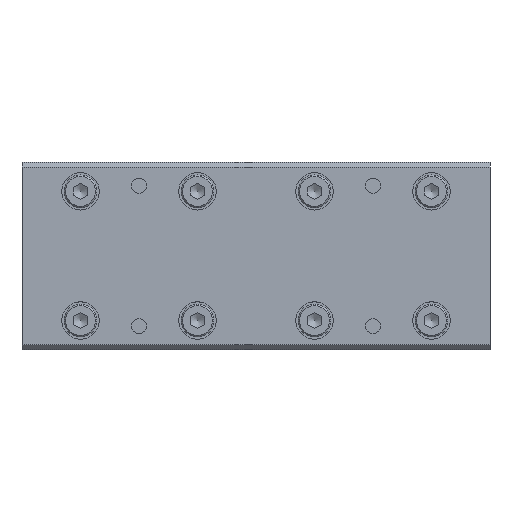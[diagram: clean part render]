
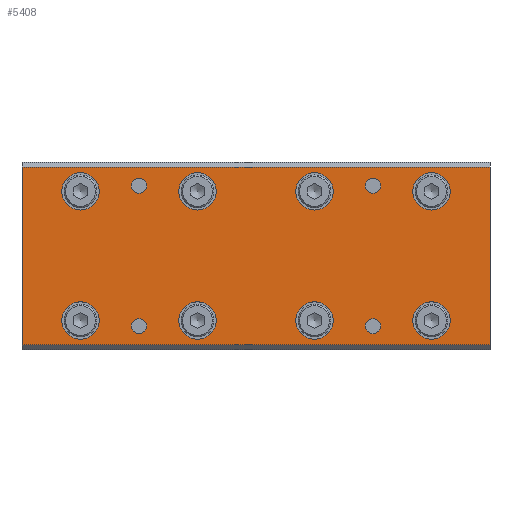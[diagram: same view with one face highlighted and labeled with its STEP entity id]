
A CAD part, top view. The second image highlights one B-rep face of the part: STEP entity #5408.
In plain terms, the highlighted planar face has unit normal (0, 0, 1).
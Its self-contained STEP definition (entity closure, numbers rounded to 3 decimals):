
#4370=CARTESIAN_POINT('',(100.0,19.0,10.));
#4371=VERTEX_POINT('',#4370);
#4378=CARTESIAN_POINT('',(100.0,-19.0,10.));
#4379=VERTEX_POINT('',#4378);
#4380=CARTESIAN_POINT('',(100.0,-19.0,10.));
#4381=DIRECTION('',(0.0,1.0,0.0));
#4382=VECTOR('',#4381,38.0);
#4383=LINE('',#4380,#4382);
#4384=EDGE_CURVE('',#4379,#4371,#4383,.T.);
#4523=CARTESIAN_POINT('',(16.5,-13.8,10.));
#4524=VERTEX_POINT('',#4523);
#4525=CARTESIAN_POINT('',(12.5,-13.8,10.));
#4526=DIRECTION('',(0.0,0.0,-1.0));
#4527=DIRECTION('',(1.0,0.0,0.0));
#4528=AXIS2_PLACEMENT_3D('',#4525,#4526,#4527);
#4529=CIRCLE('',#4528,4.0);
#4530=EDGE_CURVE('',#4524,#4524,#4529,.T.);
#4592=CARTESIAN_POINT('',(16.5,13.8,10.));
#4593=VERTEX_POINT('',#4592);
#4594=CARTESIAN_POINT('',(12.5,13.8,10.));
#4595=DIRECTION('',(0.0,0.0,-1.0));
#4596=DIRECTION('',(1.0,0.0,0.0));
#4597=AXIS2_PLACEMENT_3D('',#4594,#4595,#4596);
#4598=CIRCLE('',#4597,4.0);
#4599=EDGE_CURVE('',#4593,#4593,#4598,.T.);
#4673=CARTESIAN_POINT('',(41.5,-13.8,10.));
#4674=VERTEX_POINT('',#4673);
#4675=CARTESIAN_POINT('',(37.5,-13.8,10.));
#4676=DIRECTION('',(0.0,0.0,-1.0));
#4677=DIRECTION('',(1.0,0.0,0.0));
#4678=AXIS2_PLACEMENT_3D('',#4675,#4676,#4677);
#4679=CIRCLE('',#4678,4.0);
#4680=EDGE_CURVE('',#4674,#4674,#4679,.T.);
#4714=CARTESIAN_POINT('',(41.5,13.8,10.));
#4715=VERTEX_POINT('',#4714);
#4716=CARTESIAN_POINT('',(37.5,13.8,10.));
#4717=DIRECTION('',(0.0,0.0,-1.0));
#4718=DIRECTION('',(1.0,0.0,0.0));
#4719=AXIS2_PLACEMENT_3D('',#4716,#4717,#4718);
#4720=CIRCLE('',#4719,4.0);
#4721=EDGE_CURVE('',#4715,#4715,#4720,.T.);
#4795=CARTESIAN_POINT('',(66.5,-13.8,10.));
#4796=VERTEX_POINT('',#4795);
#4797=CARTESIAN_POINT('',(62.5,-13.8,10.));
#4798=DIRECTION('',(0.0,0.0,-1.0));
#4799=DIRECTION('',(1.0,0.0,0.0));
#4800=AXIS2_PLACEMENT_3D('',#4797,#4798,#4799);
#4801=CIRCLE('',#4800,4.0);
#4802=EDGE_CURVE('',#4796,#4796,#4801,.T.);
#4836=CARTESIAN_POINT('',(66.5,13.8,10.));
#4837=VERTEX_POINT('',#4836);
#4838=CARTESIAN_POINT('',(62.5,13.8,10.));
#4839=DIRECTION('',(0.0,0.0,-1.0));
#4840=DIRECTION('',(1.0,0.0,0.0));
#4841=AXIS2_PLACEMENT_3D('',#4838,#4839,#4840);
#4842=CIRCLE('',#4841,4.0);
#4843=EDGE_CURVE('',#4837,#4837,#4842,.T.);
#4917=CARTESIAN_POINT('',(91.5,-13.8,10.));
#4918=VERTEX_POINT('',#4917);
#4919=CARTESIAN_POINT('',(87.5,-13.8,10.));
#4920=DIRECTION('',(0.0,0.0,-1.0));
#4921=DIRECTION('',(1.0,0.0,0.0));
#4922=AXIS2_PLACEMENT_3D('',#4919,#4920,#4921);
#4923=CIRCLE('',#4922,4.0);
#4924=EDGE_CURVE('',#4918,#4918,#4923,.T.);
#4958=CARTESIAN_POINT('',(91.5,13.8,10.));
#4959=VERTEX_POINT('',#4958);
#4960=CARTESIAN_POINT('',(87.5,13.8,10.));
#4961=DIRECTION('',(0.0,0.0,-1.0));
#4962=DIRECTION('',(1.0,0.0,0.0));
#4963=AXIS2_PLACEMENT_3D('',#4960,#4961,#4962);
#4964=CIRCLE('',#4963,4.0);
#4965=EDGE_CURVE('',#4959,#4959,#4964,.T.);
#5030=CARTESIAN_POINT('',(26.621,-15.,10.));
#5031=VERTEX_POINT('',#5030);
#5032=CARTESIAN_POINT('',(25.,-15.,10.));
#5033=DIRECTION('',(0.0,0.0,-1.0));
#5034=DIRECTION('',(1.0,0.0,0.0));
#5035=AXIS2_PLACEMENT_3D('',#5032,#5033,#5034);
#5036=CIRCLE('',#5035,1.621);
#5037=EDGE_CURVE('',#5031,#5031,#5036,.T.);
#5079=CARTESIAN_POINT('',(26.621,15.,10.));
#5080=VERTEX_POINT('',#5079);
#5081=CARTESIAN_POINT('',(25.0,15.,10.));
#5082=DIRECTION('',(0.0,0.0,-1.0));
#5083=DIRECTION('',(1.0,0.0,0.0));
#5084=AXIS2_PLACEMENT_3D('',#5081,#5082,#5083);
#5085=CIRCLE('',#5084,1.621);
#5086=EDGE_CURVE('',#5080,#5080,#5085,.T.);
#5128=CARTESIAN_POINT('',(76.621,-15.,10.));
#5129=VERTEX_POINT('',#5128);
#5130=CARTESIAN_POINT('',(75.,-15.,10.));
#5131=DIRECTION('',(0.0,0.0,-1.0));
#5132=DIRECTION('',(1.0,0.0,0.0));
#5133=AXIS2_PLACEMENT_3D('',#5130,#5131,#5132);
#5134=CIRCLE('',#5133,1.621);
#5135=EDGE_CURVE('',#5129,#5129,#5134,.T.);
#5177=CARTESIAN_POINT('',(76.621,15.,10.));
#5178=VERTEX_POINT('',#5177);
#5179=CARTESIAN_POINT('',(75.0,15.,10.));
#5180=DIRECTION('',(0.0,0.0,-1.0));
#5181=DIRECTION('',(1.0,0.0,0.0));
#5182=AXIS2_PLACEMENT_3D('',#5179,#5180,#5181);
#5183=CIRCLE('',#5182,1.621);
#5184=EDGE_CURVE('',#5178,#5178,#5183,.T.);
#5332=CARTESIAN_POINT('',(0.0,19.0,10.));
#5333=VERTEX_POINT('',#5332);
#5340=CARTESIAN_POINT('',(0.0,19.0,10.));
#5341=DIRECTION('',(1.0,0.0,0.0));
#5342=VECTOR('',#5341,100.0);
#5343=LINE('',#5340,#5342);
#5344=EDGE_CURVE('',#5333,#4371,#5343,.T.);
#5349=CARTESIAN_POINT('',(0.0,-20.0,10.));
#5350=DIRECTION('',(0.0,0.0,1.0));
#5351=DIRECTION('',(1.0,0.0,0.0));
#5352=AXIS2_PLACEMENT_3D('',#5349,#5350,#5351);
#5353=PLANE('',#5352);
#5354=CARTESIAN_POINT('',(0.0,-19.0,10.));
#5355=VERTEX_POINT('',#5354);
#5356=CARTESIAN_POINT('',(100.0,-19.0,10.));
#5357=DIRECTION('',(-1.0,0.0,0.0));
#5358=VECTOR('',#5357,100.0);
#5359=LINE('',#5356,#5358);
#5360=EDGE_CURVE('',#4379,#5355,#5359,.T.);
#5361=ORIENTED_EDGE('',*,*,#5360,.F.);
#5362=ORIENTED_EDGE('',*,*,#4384,.T.);
#5363=ORIENTED_EDGE('',*,*,#5344,.F.);
#5364=CARTESIAN_POINT('',(0.0,19.0,10.));
#5365=DIRECTION('',(0.0,-1.0,0.0));
#5366=VECTOR('',#5365,38.0);
#5367=LINE('',#5364,#5366);
#5368=EDGE_CURVE('',#5333,#5355,#5367,.T.);
#5369=ORIENTED_EDGE('',*,*,#5368,.T.);
#5370=EDGE_LOOP('',(#5361,#5362,#5363,#5369));
#5371=FACE_OUTER_BOUND('',#5370,.T.);
#5372=ORIENTED_EDGE('',*,*,#5184,.T.);
#5373=EDGE_LOOP('',(#5372));
#5374=FACE_BOUND('',#5373,.T.);
#5375=ORIENTED_EDGE('',*,*,#5135,.T.);
#5376=EDGE_LOOP('',(#5375));
#5377=FACE_BOUND('',#5376,.T.);
#5378=ORIENTED_EDGE('',*,*,#5086,.T.);
#5379=EDGE_LOOP('',(#5378));
#5380=FACE_BOUND('',#5379,.T.);
#5381=ORIENTED_EDGE('',*,*,#5037,.T.);
#5382=EDGE_LOOP('',(#5381));
#5383=FACE_BOUND('',#5382,.T.);
#5384=ORIENTED_EDGE('',*,*,#4965,.T.);
#5385=EDGE_LOOP('',(#5384));
#5386=FACE_BOUND('',#5385,.T.);
#5387=ORIENTED_EDGE('',*,*,#4924,.T.);
#5388=EDGE_LOOP('',(#5387));
#5389=FACE_BOUND('',#5388,.T.);
#5390=ORIENTED_EDGE('',*,*,#4843,.T.);
#5391=EDGE_LOOP('',(#5390));
#5392=FACE_BOUND('',#5391,.T.);
#5393=ORIENTED_EDGE('',*,*,#4802,.T.);
#5394=EDGE_LOOP('',(#5393));
#5395=FACE_BOUND('',#5394,.T.);
#5396=ORIENTED_EDGE('',*,*,#4721,.T.);
#5397=EDGE_LOOP('',(#5396));
#5398=FACE_BOUND('',#5397,.T.);
#5399=ORIENTED_EDGE('',*,*,#4680,.T.);
#5400=EDGE_LOOP('',(#5399));
#5401=FACE_BOUND('',#5400,.T.);
#5402=ORIENTED_EDGE('',*,*,#4599,.T.);
#5403=EDGE_LOOP('',(#5402));
#5404=FACE_BOUND('',#5403,.T.);
#5405=ORIENTED_EDGE('',*,*,#4530,.T.);
#5406=EDGE_LOOP('',(#5405));
#5407=FACE_BOUND('',#5406,.T.);
#5408=ADVANCED_FACE('',(#5371,#5374,#5377,#5380,#5383,#5386,#5389,#5392,#5395,#5398,#5401,#5404,#5407),#5353,.T.);
